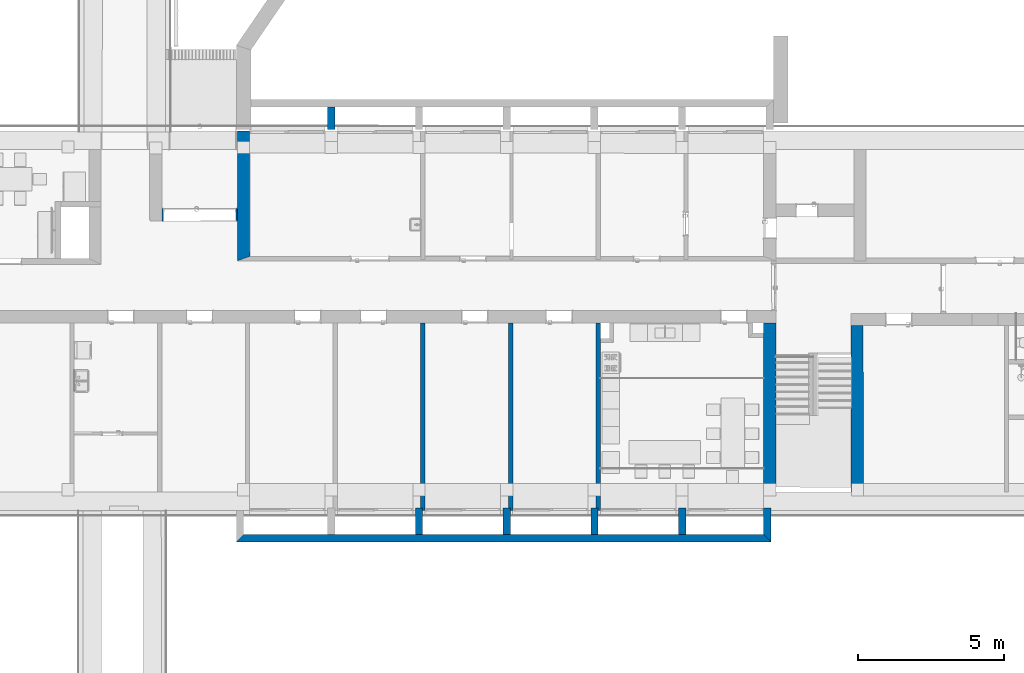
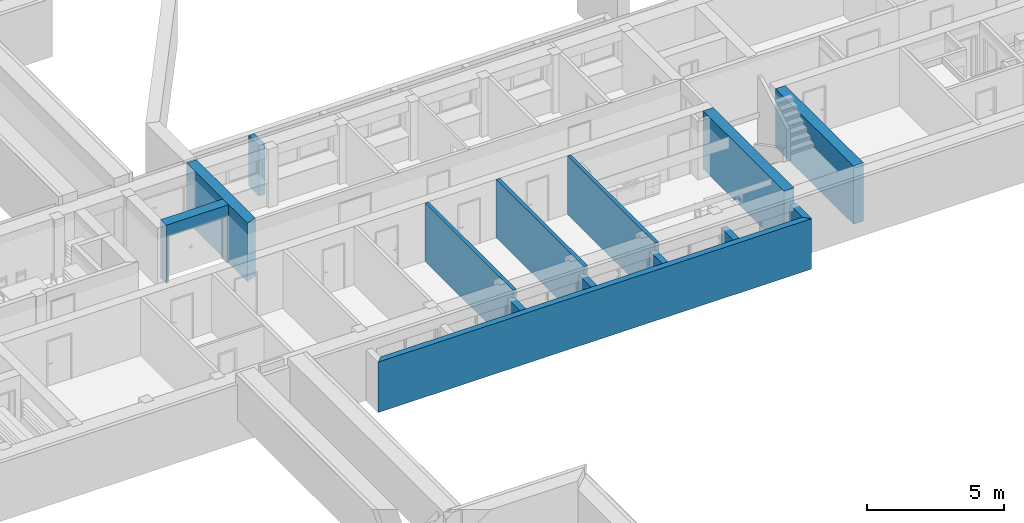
# One storey, part 7 of 127: 14 walls, 1 opening.
"""IFC2X3 building model written with IfcOpenShell, lengths in millimetres."""

from ifc_helpers import new_model, entity, si_unit, converted_unit, derived_unit, money_unit, direction, frame, origin_with_axes, origin_2d_with_axis, place, context, subcontext, project, spatial, polyline, rectangle, outline, extrude, material, layer, layer_set, layer_usage, type_object, element, save


model = new_model("IFC2X3")

# Units and contexts
model_context = context("Model", 3, precision=1e-05, world=origin_with_axes(), true_north=direction((0.0, 1.0)))
body_context = subcontext(model_context, "Body", "Model", "MODEL_VIEW")
ifc_project = project(units=[si_unit("LENGTHUNIT", "METRE", prefix="MILLI"), si_unit("AREAUNIT", "SQUARE_METRE"), si_unit("VOLUMEUNIT", "CUBIC_METRE"), converted_unit("PLANEANGLEUNIT", "DEGREE", entity("IfcPlaneAngleMeasure", 0.0174532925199), si_unit("PLANEANGLEUNIT", "RADIAN"), dimensions=[0, 0, 0, 0, 0, 0, 0]), si_unit("SOLIDANGLEUNIT", "STERADIAN"), money_unit("EUR"), converted_unit("TIMEUNIT", "Year", entity("IfcTimeMeasure", 31556926.0), si_unit("TIMEUNIT", "SECOND"), dimensions=[0, 0, 1, 0, 0, 0, 0]), si_unit("MASSUNIT", "GRAM", prefix="KILO"), si_unit("THERMODYNAMICTEMPERATUREUNIT", "DEGREE_CELSIUS"), si_unit("LUMINOUSINTENSITYUNIT", "LUMEN"), si_unit("ENERGYUNIT", "JOULE", prefix="MEGA"), derived_unit("THERMALCONDUCTANCEUNIT", [(si_unit("POWERUNIT", "WATT"), 1), (si_unit("LENGTHUNIT", "METRE"), -1), (si_unit("THERMODYNAMICTEMPERATUREUNIT", "KELVIN"), -1)]), derived_unit("SPECIFICHEATCAPACITYUNIT", [(si_unit("ENERGYUNIT", "JOULE"), 1), (si_unit("MASSUNIT", "GRAM", prefix="KILO"), -1), (si_unit("THERMODYNAMICTEMPERATUREUNIT", "KELVIN"), -1)]), derived_unit("MASSDENSITYUNIT", [(si_unit("MASSUNIT", "GRAM", prefix="KILO"), 1), (si_unit("VOLUMEUNIT", "CUBIC_METRE"), -1)])], contexts=[model_context])

# Site, building, storey
site_placement = place(None, origin_with_axes())
site = spatial("IfcSite", under=ifc_project, at=site_placement, Name="Site", CompositionType="ELEMENT")
building_placement = place(site_placement, origin_with_axes())
building = spatial("IfcBuilding", under=site, at=building_placement, Name="Building", CompositionType="ELEMENT")
storey_placement = place(building_placement, origin_with_axes())
storey = spatial("IfcBuildingStorey", under=building, at=storey_placement, Name="1 KORRUS", CompositionType="ELEMENT", Elevation=0.0)

# Walls
ifc_material_1 = material(Name="Kivi - Ol.Olev Konstruktsioon")
ifc_layer_1 = layer(ifc_material_1, 250.0, ventilated="UNKNOWN")
ifc_layer_set_1 = layer_set([ifc_layer_1], Name="Ol.olve tugimüür 250")
ifc_layer_usage_1 = layer_usage(ifc_layer_set_1, "AXIS2", "POSITIVE", -125.0)
wall_type_1 = type_object("IfcWallType", Name="SW - 028", PredefinedType="NOTDEFINED")
wall_1_placement = place(storey_placement, frame((45944.5002063, 47302.325893, 0.0), z_axis=(0.0, 0.0, 1.0), x_axis=(0.000248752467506, 0.999999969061, 0.0)))
element("IfcWallStandardCase", 1, at=wall_1_placement, inside=storey, type_object=wall_type_1, material=ifc_layer_usage_1, Name="Ol.olve tugimüür 250", context=body_context, shape_type="SweptSolid", body=[
    extrude(outline(polyline([(-9.09494701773e-10, -125.0), (762.935156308, -125.0), (762.872968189, 125.0), (0.0, 125.0), (-9.09494701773e-10, -125.0)])), origin_with_axes(), (0.0, 0.0, 1.0), 2250.0),
])
ifc_material_2 = material(Name="Kivi -Ol.Olev Konstruktsioon")
ifc_layer_2 = layer(ifc_material_2, 420.0, ventilated="UNKNOWN")
ifc_layer_set_2 = layer_set([ifc_layer_2], Name="ol.olev ss 420")
ifc_layer_usage_2 = layer_usage(ifc_layer_set_2, "AXIS2", "POSITIVE", 0.0)
wall_type_2 = type_object("IfcWallType", Name="SW - 036", PredefinedType="NOTDEFINED")
wall_2_placement = place(storey_placement, frame((60735.1742918, 41101.6242698, 0.0), z_axis=(0.0, 0.0, 1.0), x_axis=(0.0, -1.0, 0.0)))
element("IfcWallStandardCase", 2, at=wall_2_placement, inside=storey, type_object=wall_type_2, material=ifc_layer_usage_2, Name="ol.olev ss 420", context=body_context, shape_type="SweptSolid", body=[
    extrude(outline(polyline([(420.0, 0.0), (6318.28705501, 0.0), (6318.28705501, 420.0), (420.0, 420.0), (420.0, 0.0)])), origin_with_axes(), (0.0, 0.0, 1.0), 2600.0),
])
ifc_layer_usage_3 = layer_usage(ifc_layer_set_2, "AXIS2", "POSITIVE", 0.0)
wall_3_placement = place(storey_placement, frame((63720.776777, 40582.4161764, 0.0), z_axis=(0.0, 0.0, 1.0), x_axis=(0.00148599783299, -0.999998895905, 0.0)))
element("IfcWallStandardCase", 3, at=wall_3_placement, inside=storey, type_object=wall_type_2, material=ifc_layer_usage_3, Name="ol.olev ss 420", context=body_context, shape_type="SweptSolid", body=[
    extrude(outline(polyline([(0.0, 0.0), (5692.39797145, 0.0), (5692.99349189, 420.0), (0.0, 420.0), (0.0, 0.0)])), origin_with_axes(), (0.0, 0.0, 1.0), 2600.0),
])

# Wall, opening
ifc_layer_usage_4 = layer_usage(ifc_layer_set_2, "AXIS2", "POSITIVE", 0.0)
wall_4_placement = place(storey_placement, frame((40108.3594273, 44172.3026647, 0.0), z_axis=(0.0, 0.0, 1.0), x_axis=(0.99999925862, 0.00121768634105, 0.0)))
wall_4 = element("IfcWallStandardCase", 4, at=wall_4_placement, inside=storey, type_object=wall_type_2, material=ifc_layer_usage_4, Name="ol.olev ss 420", context=body_context, shape_type="SweptSolid", body=[
    extrude(outline(polyline([(0.0, 0.0), (2628.56954198, 9.09494701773e-10), (2628.56954197, 420.0), (0.0, 419.999999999), (0.0, 0.0)])), origin_with_axes(), (0.0, 0.0, 1.0), 2600.0),
])
opening_placement = place(wall_4_placement, frame((1338.03449445, 9.09494701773e-10, 0.0), z_axis=(0.0, 0.0, 1.0), x_axis=(1.0, 0.0, 0.0)))
element("IfcOpeningElement", 5, at=opening_placement, cuts=wall_4, Name="Siseuks * Double Door 22", context=body_context, shape_type="SweptSolid", body=[
    extrude(rectangle(XDim=2500.0, YDim=2100.0, at=origin_2d_with_axis()), frame((-1.13686837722e-10, -420.0, 1050.0), z_axis=(0.0, -1.0, 0.0), x_axis=(-1.0, 0.0, 0.0)), (0.0, 0.0, -1.0), 1260.0),
    extrude(rectangle(XDim=2574.0, YDim=2137.0, at=origin_2d_with_axis()), frame((0.0, 0.0, 1068.5), z_axis=(0.0, -1.0, 0.0), x_axis=(-1.0, 0.0, 0.0)), (0.0, 0.0, 1.0), 420.0),
    extrude(rectangle(XDim=2574.0, YDim=2137.0, at=origin_2d_with_axis()), frame((-2.27373675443e-10, 419.999999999, 1068.5), z_axis=(0.0, 1.0, 0.0), x_axis=(-1.0, 0.0, 0.0)), (0.0, 0.0, 1.0), 420.0),
])

# Walls
ifc_layer_usage_5 = layer_usage(ifc_layer_set_2, "AXIS2", "POSITIVE", 0.0)
wall_5_placement = place(storey_placement, frame((43158.414897, 42953.8718916, 0.0), z_axis=(0.0, 0.0, 1.0), x_axis=(-0.00121768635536, 0.99999925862, 0.0)))
element("IfcWallStandardCase", 6, at=wall_5_placement, inside=storey, type_object=wall_type_2, material=ifc_layer_usage_5, Name="ol.olev ss 420", context=body_context, shape_type="SweptSolid", body=[
    extrude(outline(polyline([(0.0, 0.0), (4292.00332345, 1.13686837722e-10), (4292.00332345, 420.0), (-149.488682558, 420.0), (0.0, 0.0)])), origin_with_axes(), (0.0, 0.0, 1.0), 2600.0),
])
ifc_layer_3 = layer(ifc_material_2, 150.0, ventilated="UNKNOWN")
ifc_layer_set_3 = layer_set([ifc_layer_3], Name="ol.olev ss 150")
ifc_layer_usage_6 = layer_usage(ifc_layer_set_3, "AXIS2", "NEGATIVE", 0.0)
wall_6_placement = place(storey_placement, frame((55155.3788404, 41101.6242698, 0.0), z_axis=(0.0, 0.0, 1.0), x_axis=(-3.45512930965e-05, -0.999999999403, 0.0)))
element("IfcWallStandardCase", 7, at=wall_6_placement, inside=storey, type_object=wall_type_2, material=ifc_layer_usage_6, Name="ol.olev ss 150", context=body_context, shape_type="SweptSolid", body=[
    extrude(outline(polyline([(420.005182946, -150.0), (6841.91555744, -150.0), (6841.91555744, -1.13686837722e-10), (420.000000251, 0.0), (420.005182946, -150.0)])), origin_with_axes(), (0.0, 0.0, 1.0), 2600.0),
])
ifc_layer_usage_7 = layer_usage(ifc_layer_set_3, "AXIS2", "POSITIVE", 0.0)
wall_7_placement = place(storey_placement, frame((52005.1743177, 41101.6242698, 0.0), z_axis=(0.0, 0.0, 1.0), x_axis=(0.0, -1.0, 0.0)))
element("IfcWallStandardCase", 8, at=wall_7_placement, inside=storey, type_object=wall_type_2, material=ifc_layer_usage_7, Name="ol.olev ss 150", context=body_context, shape_type="SweptSolid", body=[
    extrude(outline(polyline([(420.0, 0.0), (6842.18250691, 0.0), (6842.18250691, 150.0), (420.0, 150.0), (420.0, 0.0)])), origin_with_axes(), (0.0, 0.0, 1.0), 2600.0),
])
ifc_layer_usage_8 = layer_usage(ifc_layer_set_3, "AXIS2", "NEGATIVE", 0.0)
wall_8_placement = place(storey_placement, frame((49152.0299055, 41101.6242698, 0.0), z_axis=(0.0, 0.0, 1.0), x_axis=(-3.45480917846e-05, -0.999999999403, 0.0)))
element("IfcWallStandardCase", 9, at=wall_8_placement, inside=storey, type_object=wall_type_2, material=ifc_layer_usage_8, Name="ol.olev ss 150", context=body_context, shape_type="SweptSolid", body=[
    extrude(outline(polyline([(420.005182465, -150.0), (6842.4313976, -150.0), (6842.4313976, 0.0), (420.000000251, 1.13686837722e-10), (420.005182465, -150.0)])), origin_with_axes(), (0.0, 0.0, 1.0), 2600.0),
])
ifc_layer_usage_9 = layer_usage(ifc_layer_set_1, "AXIS2", "POSITIVE", -250.0)
wall_type_3 = type_object("IfcWallType", Name="SW - 032", PredefinedType="NOTDEFINED")
wall_9_placement = place(storey_placement, frame((60736.0558728, 33188.6094296, 0.0), z_axis=(0.0, 0.0, 1.0), x_axis=(0.0, 1.0, 0.0)))
element("IfcWallStandardCase", 10, at=wall_9_placement, inside=storey, type_object=wall_type_3, material=ifc_layer_usage_9, Name="Ol.olve tugimüür 250", context=body_context, shape_type="SweptSolid", body=[
    extrude(outline(polyline([(0.0, -250.0), (1164.7158269, -250.0), (1164.7158269, 0.0), (250.0, 0.0), (0.0, -250.0)])), origin_with_axes(), (0.0, 0.0, 1.0), 2250.0),
])
ifc_layer_usage_10 = layer_usage(ifc_layer_set_1, "AXIS2", "NEGATIVE", 250.0)
wall_type_4 = type_object("IfcWallType", Name="SW - 031", PredefinedType="NOTDEFINED")
wall_10_placement = place(storey_placement, frame((42948.1938629, 33188.6094296, 0.0), z_axis=(0.0, 0.0, 1.0), x_axis=(1.0, 0.0, 0.0)))
element("IfcWallStandardCase", 11, at=wall_10_placement, inside=storey, type_object=wall_type_4, material=ifc_layer_usage_10, Name="Ol.olve tugimüür 250", context=body_context, shape_type="SweptSolid", body=[
    extrude(outline(polyline([(-250.00000058, 0.0), (18037.8620099, 0.0), (17787.8620099, 250.0), (-0.0170233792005, 250.0), (-250.00000058, 0.0)])), origin_with_axes(), (0.0, 0.0, 1.0), 2250.0),
])
ifc_layer_usage_11 = layer_usage(ifc_layer_set_1, "AXIS2", "POSITIVE", -125.0)
wall_type_5 = type_object("IfcWallType", Name="SW - 033", PredefinedType="NOTDEFINED")
wall_11_placement = place(storey_placement, frame((48948.1146287, 34352.3204071, 0.0), z_axis=(0.0, 0.0, 1.0), x_axis=(6.80935165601e-05, -0.999999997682, 0.0)))
element("IfcWallStandardCase", 12, at=wall_11_placement, inside=storey, type_object=wall_type_5, material=ifc_layer_usage_11, Name="Ol.olve tugimüür 250", context=body_context, shape_type="SweptSolid", body=[
    extrude(outline(polyline([(9.09494701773e-10, -125.0), (913.702467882, -125.0), (913.719491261, 125.0), (9.09494701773e-10, 125.0), (9.09494701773e-10, -125.0)])), origin_with_axes(), (0.0, 0.0, 1.0), 2250.0),
])
ifc_layer_usage_12 = layer_usage(ifc_layer_set_1, "AXIS2", "POSITIVE", -125.0)
wall_12_placement = place(storey_placement, frame((51948.1146182, 34352.5761386, 0.0), z_axis=(0.0, 0.0, 1.0), x_axis=(6.80935177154e-05, -0.999999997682, 0.0)))
element("IfcWallStandardCase", 13, at=wall_12_placement, inside=storey, type_object=wall_type_5, material=ifc_layer_usage_12, Name="Ol.olve tugimüür 250", context=body_context, shape_type="SweptSolid", body=[
    extrude(outline(polyline([(0.0, -125.0), (913.95819942, -125.0), (913.9752228, 125.0), (0.0, 125.0), (0.0, -125.0)])), origin_with_axes(), (0.0, 0.0, 1.0), 2250.0),
])
ifc_layer_usage_13 = layer_usage(ifc_layer_set_1, "AXIS2", "POSITIVE", -125.0)
wall_13_placement = place(storey_placement, frame((54948.1209681, 34352.8318707, 0.0), z_axis=(0.0, 0.0, 1.0), x_axis=(0.0, -1.0, 0.0)))
element("IfcWallStandardCase", 14, at=wall_13_placement, inside=storey, type_object=wall_type_5, material=ifc_layer_usage_13, Name="Ol.olve tugimüür 250", context=body_context, shape_type="SweptSolid", body=[
    extrude(outline(polyline([(0.0, -125.0), (914.222441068, -125.0), (914.222441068, 125.0), (0.0, 125.0), (0.0, -125.0)])), origin_with_axes(), (0.0, 0.0, 1.0), 2250.0),
])
ifc_layer_usage_14 = layer_usage(ifc_layer_set_1, "AXIS2", "POSITIVE", -125.0)
wall_14_placement = place(storey_placement, frame((57948.1145973, 34353.0876017, 0.0), z_axis=(0.0, 0.0, 1.0), x_axis=(6.80935169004e-05, -0.999999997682, 0.0)))
element("IfcWallStandardCase", 15, at=wall_14_placement, inside=storey, type_object=wall_type_5, material=ifc_layer_usage_14, Name="Ol.olve tugimüür 250", context=body_context, shape_type="SweptSolid", body=[
    extrude(outline(polyline([(0.0, -125.0), (914.469662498, -125.0), (914.486685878, 125.0), (9.09494701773e-10, 125.0), (0.0, -125.0)])), origin_with_axes(), (0.0, 0.0, 1.0), 2250.0),
])

save(model, "model.ifc")
